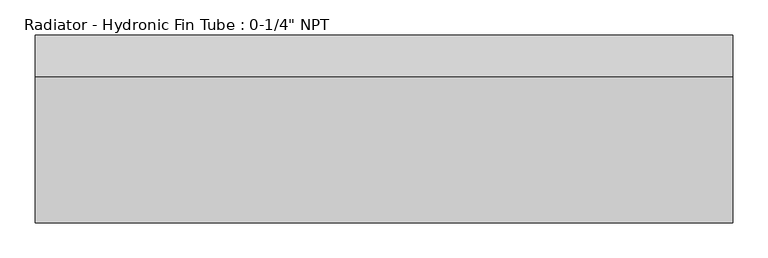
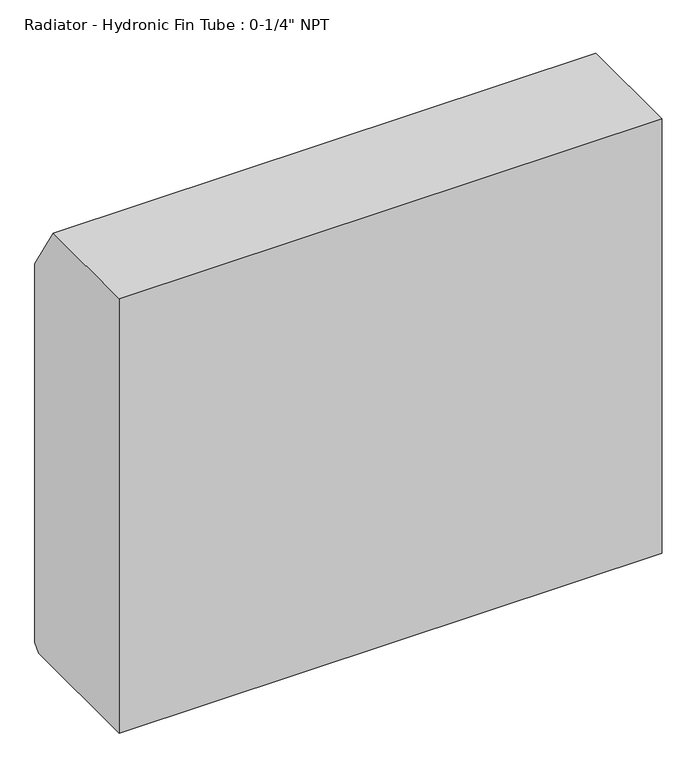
"""IFC4 building model written with IfcOpenShell, lengths in millimetres: proxy geometry."""

from ifc_helpers import new_model, si_unit, frame, origin, place, context, project, spatial, polyline, outline, extrude, source, transform, mapped, element, save


def proxy_125e8d1e(model_context):
    return source(origin(), model_context, "Body", "SweptSolid", [
        extrude(outline(polyline([(431.8, 304.8), (177.8, 304.8), (177.8, 1143.0), (385.7625, 1143.0), (444.5, 1048.6279261), (444.5, 318.3779261), (431.8, 304.8)])), frame((-914.4, 0.0, 0.0), z_axis=(1.0, 0.0, 0.0), x_axis=(0.0, 1.0, 0.0)), (0.0, 0.0, 1.0), 990.6),
    ])


if __name__ == "__main__":
    model = new_model("IFC4")
    model_context = context("Model", 3, world=origin())
    ifc_project = project(units=[si_unit("LENGTHUNIT", "METRE", prefix="MILLI")], contexts=[model_context])
    site = spatial("IfcSite", under=ifc_project)
    building = spatial("IfcBuilding", under=site)
    placement = place(None, origin())
    proxy_shape = proxy_125e8d1e(model_context)
    element("IfcBuildingElementProxy", 1, Name="Radiator - Hydronic Fin Tube : 0-1/4\" NPT", ObjectType="Radiator - Hydronic Fin Tube : 0-1/4\" NPT", at=placement, inside=building, context=model_context, shape_type="MappedRepresentation", body=[
        mapped(proxy_shape, transform((0.0, 0.0, 0.0), x_axis=(1.0, 0.0, 0.0), y_axis=(0.0, 1.0, 0.0), z_axis=(0.0, 0.0, 1.0))),
    ])
    save(model, "model.ifc")
